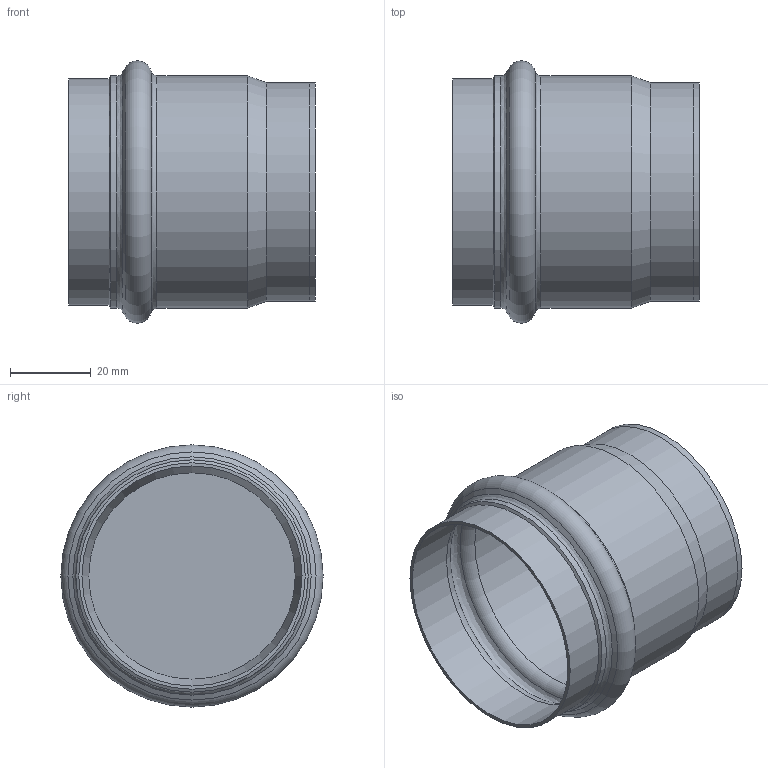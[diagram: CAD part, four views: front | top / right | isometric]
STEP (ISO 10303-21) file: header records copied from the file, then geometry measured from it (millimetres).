
FILE_DESCRIPTION((''),'2;1');
FILE_NAME('G:\Nirosan-Schmiedefeld\Technics\CAD\Bauteile VA\054\6930154(2).stp','2011-11-29T07:29:57',('herberg'),(''),'Autodesk Inventor 2009','Autodesk Inventor 2009','');
FILE_SCHEMA(('AUTOMOTIVE_DESIGN { 1 0 10303 214 1 1 1 1 }'));
Length unit declared in the file: millimetre
Products named in the file (3): 6930154(2); HM_6924354(1); D_6930154(0)
Assembly tree (2 placements, depth 2):
  6930154(2)
    HM_6924354(1)
    D_6930154(0)
Bounding box: 61 x 64.79 x 64.79 mm (x, y, z)
Volume: 18812.5 mm3; surface area: 27444.1 mm2
Topology: 2 solids, 2 shells, 23 faces, 41 edges, 22 vertices
Faces by surface type: cylinder 8, cone 5, plane 4, torus 3, bspline 3
Full cylindrical faces by diameter (mm): 51 x1, 54 x2, 54.35 x2, 55.95 x1, 57.35 x2
Entity records: 703 total; most frequent: CARTESIAN_POINT 240, DIRECTION 94, AXIS2_PLACEMENT_3D 47, ORIENTED_EDGE 44, EDGE_LOOP 44, FACE_OUTER_BOUND 23, ADVANCED_FACE 23, VERTEX_POINT 22
